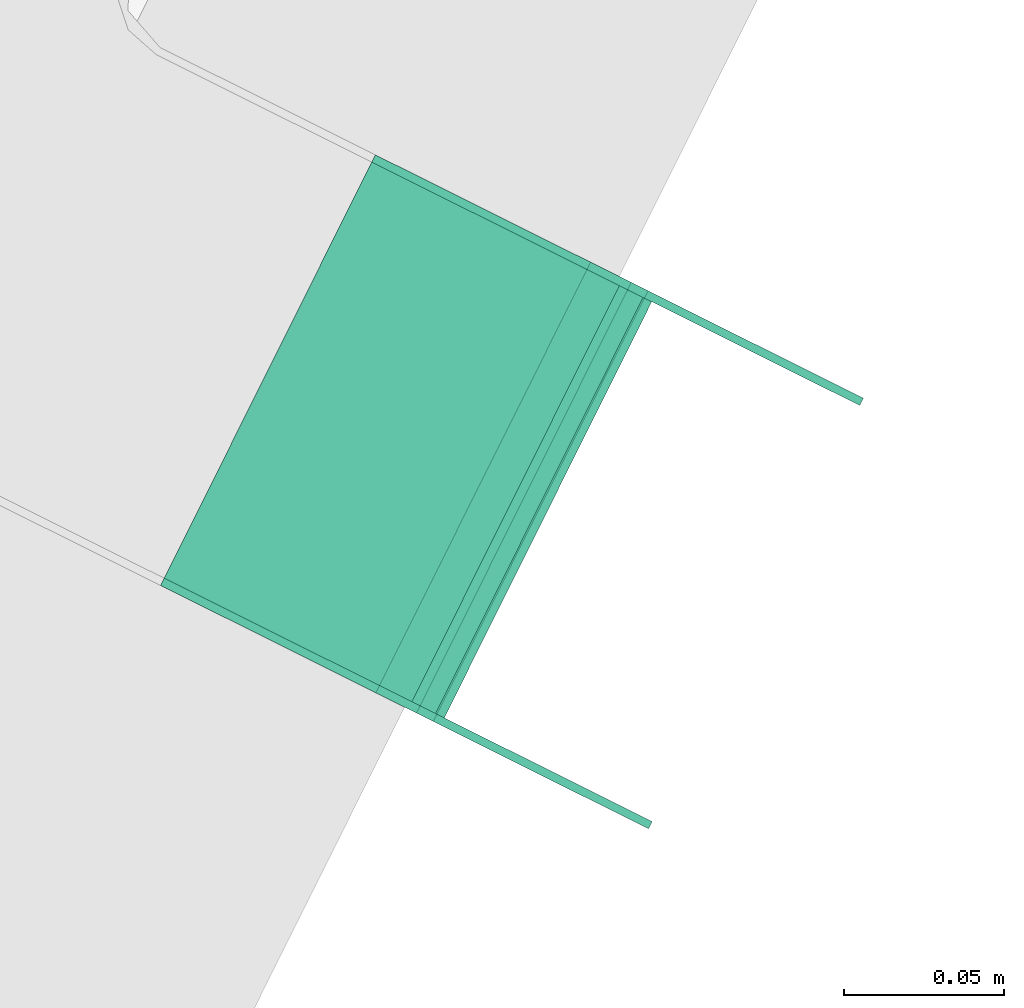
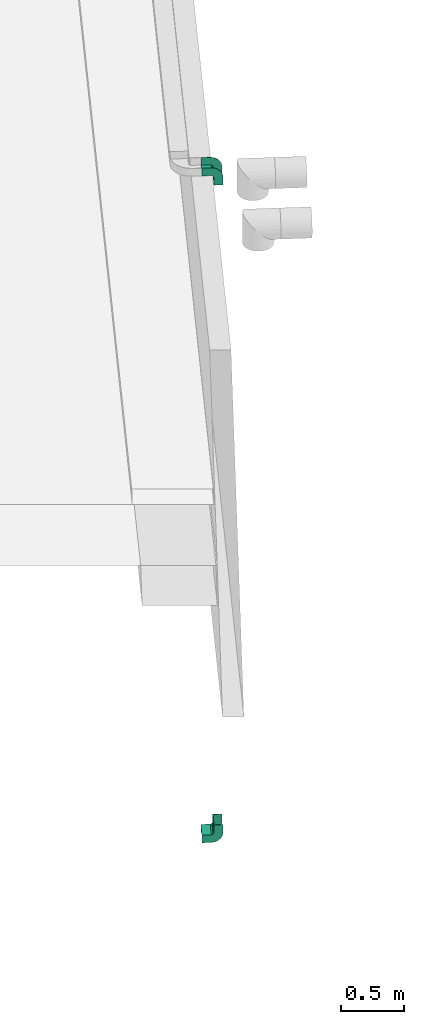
# One storey, part 30 of 34: 2 flow fittings.
"""IFC2X3 building model written with IfcOpenShell, lengths in metres."""

from ifc_helpers import new_model, entity, si_unit, converted_unit, derived_unit, direction, frame, origin, place, context, subcontext, project, spatial, faceted_brep, source, transform, mapped, type_object, type_shapes, element, save


model = new_model("IFC2X3")

# Units and contexts
model_context = context("Model", 3, precision=1e-05, world=origin(), true_north=direction((0.894925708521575, 0.446215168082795)))
context_of_model = context(None, 3, precision=1e-05, world=origin(), true_north=direction((0.894925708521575, 0.446215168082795)))
body_context = subcontext(model_context, "Body", "Model", "MODEL_VIEW")
ifc_project = project(units=[si_unit("LENGTHUNIT", "METRE"), si_unit("AREAUNIT", "SQUARE_METRE"), si_unit("VOLUMEUNIT", "CUBIC_METRE"), converted_unit("PLANEANGLEUNIT", "DEGREE", entity("IfcRatioMeasure", 0.0174532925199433), si_unit("PLANEANGLEUNIT", "RADIAN"), dimensions=[0, 0, 0, 0, 0, 0, 0]), si_unit("MASSUNIT", "GRAM", prefix="KILO"), si_unit("TIMEUNIT", "SECOND"), si_unit("FREQUENCYUNIT", "HERTZ"), si_unit("THERMODYNAMICTEMPERATUREUNIT", "DEGREE_CELSIUS"), derived_unit("THERMALTRANSMITTANCEUNIT", [(si_unit("MASSUNIT", "GRAM", prefix="KILO"), 1), (si_unit("THERMODYNAMICTEMPERATUREUNIT", "KELVIN"), -1), (si_unit("TIMEUNIT", "SECOND"), -3)]), derived_unit("VOLUMETRICFLOWRATEUNIT", [(si_unit("LENGTHUNIT", "METRE"), 3), (si_unit("TIMEUNIT", "SECOND"), -1)]), si_unit("ELECTRICCURRENTUNIT", "AMPERE"), si_unit("ELECTRICVOLTAGEUNIT", "VOLT"), si_unit("POWERUNIT", "WATT"), si_unit("FORCEUNIT", "NEWTON", prefix="KILO"), si_unit("ILLUMINANCEUNIT", "LUX"), si_unit("LUMINOUSFLUXUNIT", "LUMEN"), si_unit("LUMINOUSINTENSITYUNIT", "CANDELA"), si_unit("PRESSUREUNIT", "PASCAL")], contexts=[model_context, context_of_model])

# Site, building, storey
site_placement = place(None, frame((218.228324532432, 584.720189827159, 0.0), z_axis=(0.0, 0.0, 1.0), x_axis=(0.446215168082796, 0.894925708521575, 0.0)))
site = spatial("IfcSite", under=ifc_project, at=site_placement, Name="Default", CompositionType="ELEMENT")
building_placement = place(site_placement, origin())
building = spatial("IfcBuilding", under=site, at=building_placement, CompositionType="ELEMENT")
storey_placement = place(building_placement, frame((0.0, 0.0, 8.61)))
storey = spatial("IfcBuildingStorey", under=building, at=storey_placement, Name="2 - Piano Secondo", CompositionType="ELEMENT", Elevation=8.61)

# Flow fittings
cable_carrier_fitting_type_1 = type_object("IfcCableCarrierFittingType", Name="Standard", PredefinedType="NOTDEFINED")
shared_shape_1 = source(origin(), body_context, "Body", "Brep", [
    faceted_brep([(-0.132499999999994, -0.0374999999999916, -0.0750000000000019), (-0.132499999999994, -0.0374999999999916, 0.0749999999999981), (-0.132499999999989, 0.0375000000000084, 0.0749999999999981), (-0.132499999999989, 0.0375000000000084, 0.0724600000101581), (-0.132499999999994, -0.0349600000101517, 0.0724600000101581), (-0.132499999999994, -0.0349600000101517, -0.0724600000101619), (-0.132499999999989, 0.0375000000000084, -0.0724600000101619), (-0.132499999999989, 0.0375000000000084, -0.0750000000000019), (0.0375000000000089, -0.132499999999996, -0.0750000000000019), (0.0375000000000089, -0.132499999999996, -0.0724600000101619), (-0.0349600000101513, -0.132499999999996, -0.0724600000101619), (-0.0349600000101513, -0.132499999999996, 0.0724600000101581), (0.0375000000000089, -0.132499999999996, 0.0724600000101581), (0.0375000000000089, -0.132499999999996, 0.0749999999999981), (-0.0374999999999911, -0.132499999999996, 0.0749999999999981), (-0.0374999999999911, -0.132499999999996, -0.0750000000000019), (-0.05749999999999, -0.0374999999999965, 0.0749999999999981), (-0.0542283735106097, -0.0388551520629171, 0.0749999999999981), (-0.0509567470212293, -0.0402103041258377, 0.0749999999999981), (-0.0471573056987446, -0.0417840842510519, 0.0749999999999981), (-0.0433578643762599, -0.043357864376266, 0.0749999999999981), (-0.0418933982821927, -0.0468933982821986, 0.0749999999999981), (-0.0404289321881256, -0.0504289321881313, 0.0749999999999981), (-0.0388551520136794, -0.0542283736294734, 0.0749999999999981), (-0.0374999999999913, -0.0574999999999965, 0.0749999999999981), (0.0375000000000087, -0.0574999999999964, 0.0749999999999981), (0.0358431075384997, -0.0470387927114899, 0.0749999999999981), (0.0343467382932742, -0.0375910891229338, 0.0749999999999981), (0.0328503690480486, -0.0281433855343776, 0.0749999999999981), (0.0261034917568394, -0.0149018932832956, 0.0749999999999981), (0.0193566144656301, -0.00166040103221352, 0.0749999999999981), (0.00884810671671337, 0.00884810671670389, 0.0749999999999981), (-0.00166040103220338, 0.0193566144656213, 0.0749999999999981), (-0.014901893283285, 0.0261034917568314, 0.0749999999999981), (-0.0281433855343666, 0.0328503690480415, 0.0749999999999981), (-0.0375910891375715, 0.0343467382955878, 0.0749999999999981), (-0.0470387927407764, 0.0358431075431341, 0.0749999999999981), (-0.0574999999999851, 0.0375000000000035, 0.0749999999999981), (-0.05749999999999, -0.0374999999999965, -0.0750000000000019), (-0.0281433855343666, 0.0328503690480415, -0.0750000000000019), (-0.014901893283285, 0.0261034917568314, -0.0750000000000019), (-0.00166040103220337, 0.0193566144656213, -0.0750000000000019), (0.00884810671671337, 0.00884810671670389, -0.0750000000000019), (0.0193566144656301, -0.00166040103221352, -0.0750000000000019), (0.0261034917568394, -0.0149018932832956, -0.0750000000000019), (0.0328503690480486, -0.0281433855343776, -0.0750000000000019), (0.0343467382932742, -0.0375910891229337, -0.0750000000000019), (0.0358431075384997, -0.0470387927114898, -0.0750000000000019), (0.0375000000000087, -0.0574999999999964, -0.0750000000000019), (-0.0374999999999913, -0.0574999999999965, -0.0750000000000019), (-0.0389644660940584, -0.0539644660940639, -0.0750000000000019), (-0.0404289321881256, -0.0504289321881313, -0.0750000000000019), (-0.0418933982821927, -0.0468933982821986, -0.0750000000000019), (-0.0433578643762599, -0.043357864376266, -0.0750000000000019), (-0.0468933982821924, -0.0418933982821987, -0.0750000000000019), (-0.0504289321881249, -0.0404289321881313, -0.0750000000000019), (-0.0539644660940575, -0.0389644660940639, -0.0750000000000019), (-0.0574999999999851, 0.0375000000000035, -0.0750000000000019), (-0.0428216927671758, 0.0351751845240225, -0.0750000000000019), (-0.0574999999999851, 0.0375000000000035, -0.0724600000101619), (-0.0574999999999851, 0.0375000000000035, 0.0724600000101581), (-0.0574999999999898, -0.0349600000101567, -0.0724600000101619), (-0.0518650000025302, -0.0364698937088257, -0.0724600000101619), (-0.0462300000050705, -0.0379797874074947, -0.0724600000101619), (-0.0421048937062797, -0.0421048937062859, -0.0724600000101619), (-0.0379797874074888, -0.046230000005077, -0.0724600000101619), (-0.0364698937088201, -0.0518650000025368, -0.0724600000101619), (-0.0349600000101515, -0.0574999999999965, -0.0724600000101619), (0.0375000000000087, -0.0574999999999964, -0.0724600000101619), (0.0351751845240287, -0.042821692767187, -0.0724600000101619), (0.0328503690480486, -0.0281433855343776, -0.0724600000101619), (0.0261034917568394, -0.0149018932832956, -0.0724600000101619), (0.0193566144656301, -0.00166040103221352, -0.0724600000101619), (0.00884810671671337, 0.00884810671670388, -0.0724600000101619), (-0.00166040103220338, 0.0193566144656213, -0.0724600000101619), (-0.014901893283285, 0.0261034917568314, -0.0724600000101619), (-0.0281433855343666, 0.0328503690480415, -0.0724600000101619), (-0.0428216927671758, 0.0351751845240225, -0.0724600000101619), (-0.0574999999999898, -0.0349600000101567, 0.0724600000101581), (0.0193566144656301, -0.00166040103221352, 0.0724600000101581), (0.0261034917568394, -0.0149018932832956, 0.0724600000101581), (0.0328503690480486, -0.0281433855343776, 0.0724600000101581), (0.0351751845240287, -0.042821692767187, 0.0724600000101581), (0.0375000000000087, -0.0574999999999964, 0.0724600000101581), (-0.0349600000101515, -0.0574999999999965, 0.0724600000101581), (-0.036111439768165, -0.0532027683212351, 0.0724600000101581), (-0.0379797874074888, -0.046230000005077, 0.0724600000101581), (-0.0421048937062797, -0.0421048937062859, 0.0724600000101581), (-0.0462300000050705, -0.0379797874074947, 0.0724600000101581), (-0.0532027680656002, -0.0361114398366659, 0.0724600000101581), (-0.0428216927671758, 0.0351751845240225, 0.0724600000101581), (-0.0281433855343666, 0.0328503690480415, 0.0724600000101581), (-0.014901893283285, 0.0261034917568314, 0.0724600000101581), (-0.00166040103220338, 0.0193566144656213, 0.0724600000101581), (0.00884810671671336, 0.00884810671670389, 0.0724600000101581)], [[[0, 1, 2, 3, 4, 5, 6, 7]], [[8, 9, 10, 11, 12, 13, 14, 15]], [[1, 16, 17, 18, 19, 20, 21, 22, 23, 24, 14, 13, 25, 26, 27, 28, 29, 30, 31, 32, 33, 34, 35, 36, 37, 2]], [[38, 16, 1, 0]], [[39, 40, 41, 42, 43, 44, 45, 46, 47, 48, 8, 15, 49, 50, 51, 52, 53, 54, 55, 56, 38, 0, 7, 57, 58]], [[59, 57, 7, 6]], [[37, 60, 3, 2]], [[5, 61, 62, 63, 64, 65, 66, 67, 10, 9, 68, 69, 70, 71, 72, 73, 74, 75, 76, 77, 59, 6]], [[61, 5, 4, 78]], [[79, 80, 81, 82, 83, 12, 11, 84, 85, 86, 87, 88, 89, 78, 4, 3, 60, 90, 91, 92, 93, 94]], [[18, 17, 16, 38, 56, 55, 54, 53, 20, 19]], [[20, 53, 52, 51, 50, 49, 24, 23, 22, 21]], [[77, 76, 39, 58, 57, 59]], [[34, 91, 90, 60, 37, 36, 35]], [[74, 41, 40, 39, 76, 75]], [[34, 33, 32, 93, 92, 91]], [[69, 68, 48, 47, 46, 45, 70]], [[27, 26, 25, 83, 82, 81, 28]], [[73, 72, 43, 42, 41, 74]], [[79, 94, 93, 32, 31, 30]], [[45, 44, 43, 72, 71, 70]], [[30, 29, 28, 81, 80, 79]], [[63, 62, 61, 78, 89, 88]], [[87, 86, 65, 64, 63, 88]], [[85, 84, 67, 66, 65, 86]], [[15, 14, 24, 49]], [[9, 8, 48, 68]], [[13, 12, 83, 25]], [[10, 67, 84, 11]]]),
])
type_shapes(cable_carrier_fitting_type_1, [shared_shape_1])
flow_fitting_1_placement = place(storey_placement, frame((-49.1916952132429, -13.4285789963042, 1.05999999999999), z_axis=(-1.0, 0.0, 0.0), x_axis=(0.0, -1.0, 0.0)))
element("IfcFlowFitting", 1, at=flow_fitting_1_placement, inside=storey, type_object=cable_carrier_fitting_type_1, Name="M_Curvatura esterna verticale canale:Standard", ObjectType="Standard", context=body_context, shape_type="MappedRepresentation", body=[
    mapped(shared_shape_1, transform((0.0, 0.0, 0.0), scale=1.0)),
])
cable_carrier_fitting_type_2 = type_object("IfcCableCarrierFittingType", Name="Standard", PredefinedType="NOTDEFINED")
shared_shape_2 = source(origin(), body_context, "Body", "Brep", [
    faceted_brep([(-0.132499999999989, -0.0375000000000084, -0.0750000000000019), (-0.132499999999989, -0.0375000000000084, -0.0724600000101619), (-0.132499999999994, 0.0349600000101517, -0.0724600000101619), (-0.132499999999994, 0.0349600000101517, 0.0724600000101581), (-0.132499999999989, -0.0375000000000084, 0.0724600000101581), (-0.132499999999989, -0.0375000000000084, 0.0749999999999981), (-0.132499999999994, 0.0374999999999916, 0.0749999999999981), (-0.132499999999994, 0.0374999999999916, -0.0750000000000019), (-0.0374999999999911, 0.132499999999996, -0.0750000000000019), (-0.0374999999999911, 0.132499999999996, 0.0749999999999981), (0.0375000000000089, 0.132499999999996, 0.0749999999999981), (0.0375000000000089, 0.132499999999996, 0.0724600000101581), (-0.0349600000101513, 0.132499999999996, 0.0724600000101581), (-0.0349600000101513, 0.132499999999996, -0.0724600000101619), (0.0375000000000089, 0.132499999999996, -0.0724600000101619), (0.0375000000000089, 0.132499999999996, -0.0750000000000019), (-0.0574999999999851, -0.0375000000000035, 0.0749999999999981), (-0.0470387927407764, -0.0358431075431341, 0.0749999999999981), (-0.0375910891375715, -0.0343467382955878, 0.0749999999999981), (-0.0281433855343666, -0.0328503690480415, 0.0749999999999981), (-0.014901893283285, -0.0261034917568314, 0.0749999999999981), (-0.00166040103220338, -0.0193566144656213, 0.0749999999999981), (0.00884810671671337, -0.00884810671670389, 0.0749999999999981), (0.0193566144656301, 0.00166040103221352, 0.0749999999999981), (0.0261034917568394, 0.0149018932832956, 0.0749999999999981), (0.0328503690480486, 0.0281433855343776, 0.0749999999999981), (0.0343467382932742, 0.0375910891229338, 0.0749999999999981), (0.0358431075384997, 0.04703879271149, 0.0749999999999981), (0.0375000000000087, 0.0574999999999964, 0.0749999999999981), (-0.0374999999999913, 0.0574999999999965, 0.0749999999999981), (-0.0388551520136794, 0.0542283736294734, 0.0749999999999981), (-0.0404289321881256, 0.0504289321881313, 0.0749999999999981), (-0.0418933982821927, 0.0468933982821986, 0.0749999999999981), (-0.0433578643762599, 0.043357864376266, 0.0749999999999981), (-0.0471573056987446, 0.0417840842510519, 0.0749999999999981), (-0.0509567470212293, 0.0402103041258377, 0.0749999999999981), (-0.0542283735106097, 0.0388551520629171, 0.0749999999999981), (-0.05749999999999, 0.0374999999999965, 0.0749999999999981), (-0.05749999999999, 0.0374999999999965, -0.0750000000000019), (-0.0281433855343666, -0.0328503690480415, -0.0750000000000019), (-0.0428216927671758, -0.0351751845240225, -0.0750000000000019), (-0.0574999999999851, -0.0375000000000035, -0.0750000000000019), (-0.0539644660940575, 0.0389644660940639, -0.0750000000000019), (-0.0504289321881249, 0.0404289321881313, -0.0750000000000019), (-0.0468933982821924, 0.0418933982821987, -0.0750000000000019), (-0.0433578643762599, 0.043357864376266, -0.0750000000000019), (-0.0418933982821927, 0.0468933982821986, -0.0750000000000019), (-0.0404289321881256, 0.0504289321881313, -0.0750000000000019), (-0.0389644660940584, 0.0539644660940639, -0.0750000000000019), (-0.0374999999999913, 0.0574999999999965, -0.0750000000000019), (0.0375000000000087, 0.0574999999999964, -0.0750000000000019), (0.0358431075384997, 0.0470387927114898, -0.0750000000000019), (0.0343467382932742, 0.0375910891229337, -0.0750000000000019), (0.0328503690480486, 0.0281433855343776, -0.0750000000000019), (0.0261034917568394, 0.0149018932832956, -0.0750000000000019), (0.0193566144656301, 0.00166040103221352, -0.0750000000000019), (0.00884810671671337, -0.00884810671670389, -0.0750000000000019), (-0.00166040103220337, -0.0193566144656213, -0.0750000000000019), (-0.014901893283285, -0.0261034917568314, -0.0750000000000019), (-0.0574999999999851, -0.0375000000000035, -0.0724600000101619), (-0.0574999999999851, -0.0375000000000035, 0.0724600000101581), (-0.0428216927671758, -0.0351751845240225, -0.0724600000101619), (-0.0281433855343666, -0.0328503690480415, -0.0724600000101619), (-0.014901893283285, -0.0261034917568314, -0.0724600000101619), (-0.00166040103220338, -0.0193566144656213, -0.0724600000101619), (0.00884810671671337, -0.00884810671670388, -0.0724600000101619), (0.0193566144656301, 0.00166040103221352, -0.0724600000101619), (0.0261034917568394, 0.0149018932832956, -0.0724600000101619), (0.0328503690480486, 0.0281433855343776, -0.0724600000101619), (0.0351751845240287, 0.042821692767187, -0.0724600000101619), (0.0375000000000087, 0.0574999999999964, -0.0724600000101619), (-0.0349600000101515, 0.0574999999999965, -0.0724600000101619), (-0.0364698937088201, 0.0518650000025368, -0.0724600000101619), (-0.0379797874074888, 0.046230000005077, -0.0724600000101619), (-0.0421048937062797, 0.0421048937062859, -0.0724600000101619), (-0.0462300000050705, 0.0379797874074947, -0.0724600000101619), (-0.0518650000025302, 0.0364698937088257, -0.0724600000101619), (-0.0574999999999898, 0.0349600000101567, -0.0724600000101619), (-0.0574999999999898, 0.0349600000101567, 0.0724600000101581), (0.0193566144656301, 0.00166040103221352, 0.0724600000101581), (0.00884810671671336, -0.00884810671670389, 0.0724600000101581), (-0.00166040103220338, -0.0193566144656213, 0.0724600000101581), (-0.014901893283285, -0.0261034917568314, 0.0724600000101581), (-0.0281433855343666, -0.0328503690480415, 0.0724600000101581), (-0.0428216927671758, -0.0351751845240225, 0.0724600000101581), (-0.0532027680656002, 0.0361114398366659, 0.0724600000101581), (-0.0462300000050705, 0.0379797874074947, 0.0724600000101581), (-0.0421048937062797, 0.0421048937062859, 0.0724600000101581), (-0.0379797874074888, 0.046230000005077, 0.0724600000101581), (-0.036111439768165, 0.053202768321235, 0.0724600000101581), (-0.0349600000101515, 0.0574999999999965, 0.0724600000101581), (0.0375000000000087, 0.0574999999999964, 0.0724600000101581), (0.0351751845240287, 0.042821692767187, 0.0724600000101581), (0.0328503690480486, 0.0281433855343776, 0.0724600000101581), (0.0261034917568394, 0.0149018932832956, 0.0724600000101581)], [[[0, 1, 2, 3, 4, 5, 6, 7]], [[8, 9, 10, 11, 12, 13, 14, 15]], [[5, 16, 17, 18, 19, 20, 21, 22, 23, 24, 25, 26, 27, 28, 10, 9, 29, 30, 31, 32, 33, 34, 35, 36, 37, 6]], [[7, 6, 37, 38]], [[39, 40, 41, 0, 7, 38, 42, 43, 44, 45, 46, 47, 48, 49, 8, 15, 50, 51, 52, 53, 54, 55, 56, 57, 58]], [[1, 0, 41, 59]], [[5, 4, 60, 16]], [[1, 59, 61, 62, 63, 64, 65, 66, 67, 68, 69, 70, 14, 13, 71, 72, 73, 74, 75, 76, 77, 2]], [[3, 2, 77, 78]], [[79, 80, 81, 82, 83, 84, 60, 4, 3, 78, 85, 86, 87, 88, 89, 90, 12, 11, 91, 92, 93, 94]], [[34, 33, 45, 44, 43, 42, 38, 37, 36, 35]], [[32, 31, 30, 29, 49, 48, 47, 46, 45, 33]], [[39, 62, 61, 59, 41, 40]], [[18, 17, 16, 60, 84, 83, 19]], [[63, 62, 39, 58, 57, 64]], [[83, 82, 81, 21, 20, 19]], [[68, 53, 52, 51, 50, 70, 69]], [[92, 91, 28, 27, 26, 25, 93]], [[64, 57, 56, 55, 66, 65]], [[23, 22, 21, 81, 80, 79]], [[67, 66, 55, 54, 53, 68]], [[79, 94, 93, 25, 24, 23]], [[86, 85, 78, 77, 76, 75]], [[73, 88, 87, 86, 75, 74]], [[71, 90, 89, 88, 73, 72]], [[49, 29, 9, 8]], [[70, 50, 15, 14]], [[28, 91, 11, 10]], [[90, 71, 13, 12]]]),
])
type_shapes(cable_carrier_fitting_type_2, [shared_shape_2])
flow_fitting_2_placement = place(storey_placement, frame((-49.1916952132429, -13.4285789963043, -5.4375), z_axis=(-1.0, 0.0, 0.0), x_axis=(0.0, -1.0, 0.0)))
element("IfcFlowFitting", 2, at=flow_fitting_2_placement, inside=storey, type_object=cable_carrier_fitting_type_2, Name="M_Curvatura esterna verticale canale:Standard", ObjectType="Standard", context=body_context, shape_type="MappedRepresentation", body=[
    mapped(shared_shape_2, transform((0.0, 0.0, 0.0), scale=1.0)),
])

save(model, "model.ifc")
